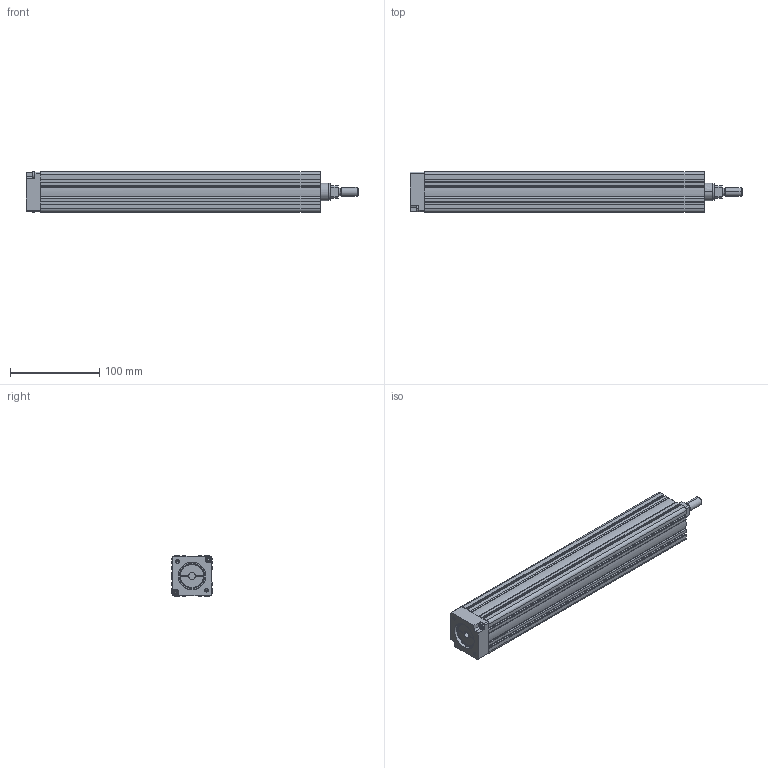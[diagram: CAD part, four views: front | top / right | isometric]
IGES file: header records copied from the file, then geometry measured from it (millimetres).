
Start section: SolidWorks IGES file using analytic representation for surfaces
Global section: file name: C:\Users\render\Documents\CAD Files\Integrated-Actuators\RD-Series\RD-45T\RD-45T-200.IGS; native system: SolidWorks 2009; preprocessor: SolidWorks 2009; author: render; date: 100614.133832; units: millimetre
Bounding box: 371.5 x 45 x 45.1 mm (x, y, z)
Surface area: 129892.9 mm2 (no closed solid volume)
Topology: 0 solids, 0 shells, 345 faces, 3507 edges, 3499 vertices
Faces by surface type: bspline 204, revolution 141
